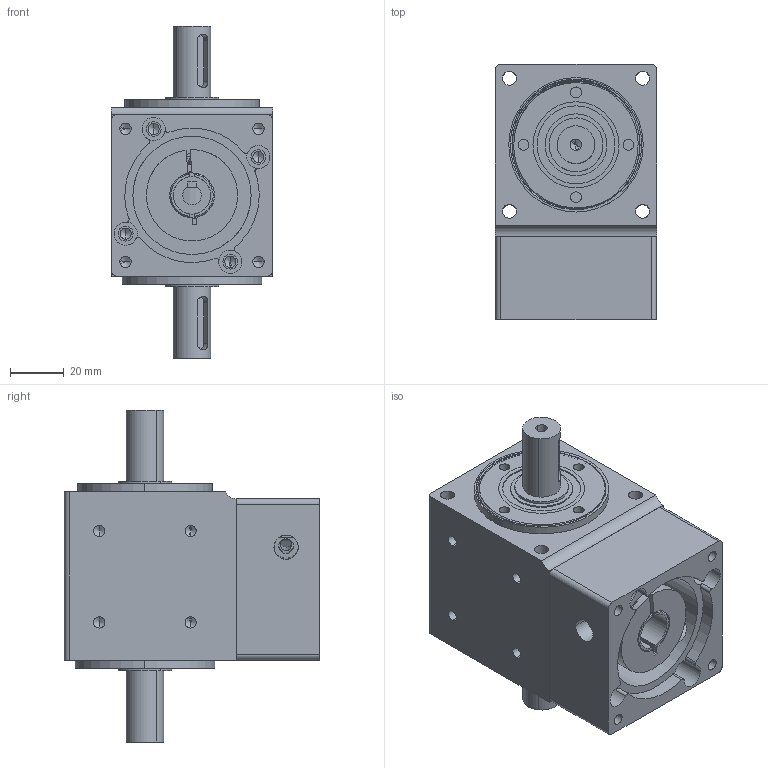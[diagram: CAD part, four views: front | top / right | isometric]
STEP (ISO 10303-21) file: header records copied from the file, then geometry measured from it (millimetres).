
FILE_DESCRIPTION (( 'STEP AP203' ), '1' );
FILE_NAME ('装配体7.STEP', '2024-04-16T05:08:16', ( '微软用户' ), ( '微软中国' ), 'SwSTEP 2.0', 'SolidWorks 2015', '' );
FILE_SCHEMA (( 'CONFIG_CONTROL_DESIGN' ));
Length unit declared in the file: millimetre
Products named in the file (12): 蚾饜极7; deep groove ball bearings gb_Rolling bearings 6003 GB 276-94_2; 綴楊擘3; PVFH060-L1-()-P()-14-50-70-M4邧粣; 输入轴_2; tapered roller bearings gb_Rolling bearings 30204 GB 297-94_2; PVFGB060-L1-5-P1-T-14-50-70-M5（出孔12带键槽4）; 20-32-5蚐猾_2; 褲极_2; 標杶_2; 60邧粣怀堤粣; 蹟譫_2
Assembly tree (14 placements, depth 3):
  蚾饜极7
    PVFH060-L1-()-P()-14-50-70-M4邧粣
      褲极_2
      標杶_2
      蹟譫_2  x2
      输入轴_2
      deep groove ball bearings gb_Rolling bearings 6003 GB 276-94_2
      tapered roller bearings gb_Rolling bearings 30204 GB 297-94_2  x2
      20-32-5蚐猾_2  x2
      60邧粣怀堤粣
    PVFGB060-L1-5-P1-T-14-50-70-M5（出孔12带键槽4）
      綴楊擘3
Bounding box: 60 x 95 x 123.5 mm (x, y, z)
Volume: 265565.1 mm3; surface area: 116043.6 mm2
Topology: 12 solids, 12 shells, 885 faces, 2815 edges, 1820 vertices
Faces by surface type: bspline 304, cylinder 253, plane 173, cone 155
Entity records: 33201 total; most frequent: CARTESIAN_POINT 15613, ORIENTED_EDGE 3912, DIRECTION 2919, EDGE_CURVE 1956, VERTEX_POINT 1285, AXIS2_PLACEMENT_3D 1260, CIRCLE 792, EDGE_LOOP 783
